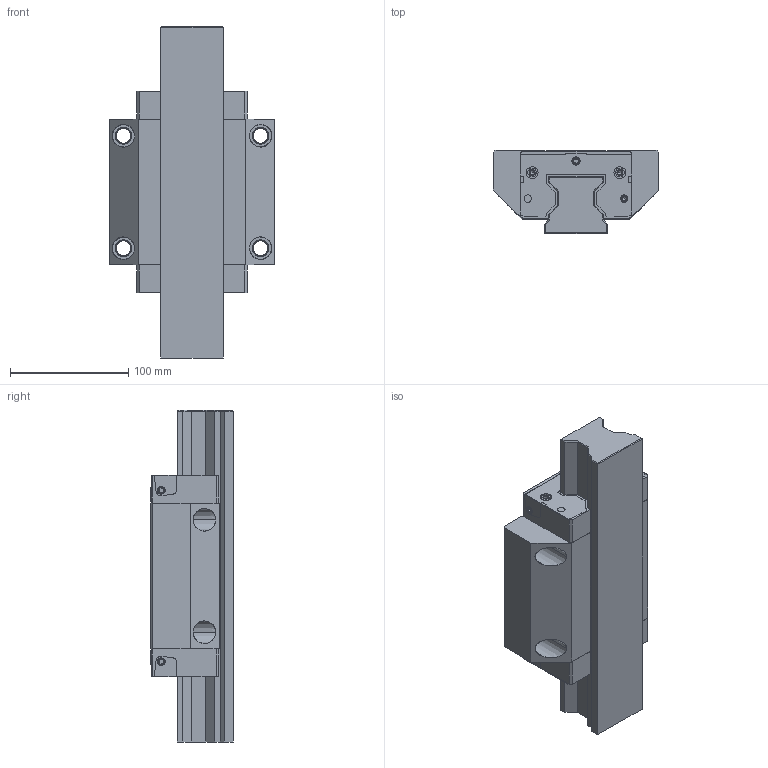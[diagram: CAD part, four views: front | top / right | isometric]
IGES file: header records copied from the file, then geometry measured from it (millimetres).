
Start section: 3D InterOp IGES (v. 2019 1.0.2), Spatial Corp. Copyright (c) 1999-2017.
Global section: file name: R1851_size55.igs; native system: Spatial Corp.; preprocessor: 3D InterOp GENERIC/IGES 3.0; author: Noname; organization: Noname; date: 20220630.112916; units: millimetre
Bounding box: 140 x 70 x 280.65 mm (x, y, z)
Surface area: 204374.6 mm2 (no closed solid volume)
Topology: 0 solids, 0 shells, 546 faces, 2880 edges, 2856 vertices
Faces by surface type: extrusion 338, revolution 208
